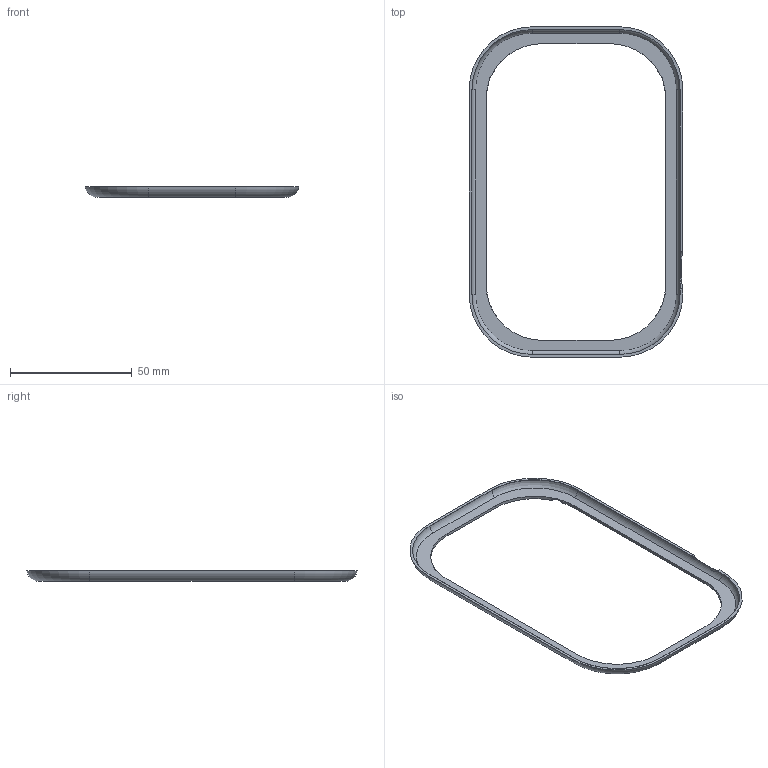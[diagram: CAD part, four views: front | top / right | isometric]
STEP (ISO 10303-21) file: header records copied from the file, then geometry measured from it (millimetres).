
FILE_DESCRIPTION(('Open CASCADE Model'),'2;1');
FILE_NAME('Open CASCADE Shape Model','2026-09-06T11:28:28',('Author'),( 'Open CASCADE'),'Open CASCADE STEP processor 7.7','Open CASCADE 7.7' ,'Unknown');
FILE_SCHEMA(('AUTOMOTIVE_DESIGN { 1 0 10303 214 1 1 1 1 }'));
Length unit declared in the file: millimetre
Products named in the file (1): Open CASCADE STEP translator 7.7 4
Bounding box: 87.9 x 135.9 x 4.3 mm (x, y, z)
Volume: 3243.2 mm3; surface area: 7691.7 mm2
Topology: 1 solids, 1 shells, 53 faces, 145 edges, 94 vertices
Faces by surface type: cylinder 26, plane 15, torus 8, cone 4
Entity records: 3982 total; most frequent: CARTESIAN_POINT 1203, DIRECTION 498, ORIENTED_EDGE 290, PCURVE 290, DEFINITIONAL_REPRESENTATION 290, LINE 232, VECTOR 232, EDGE_CURVE 145
